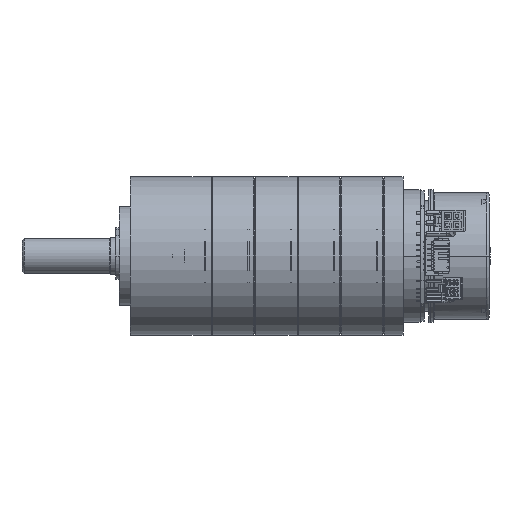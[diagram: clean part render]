
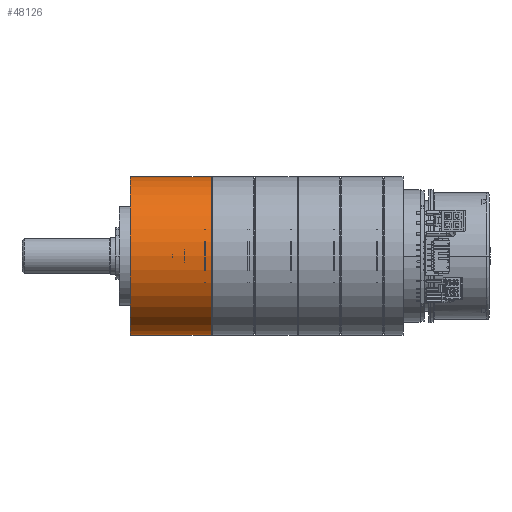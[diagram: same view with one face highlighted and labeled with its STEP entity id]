
A CAD part, front view. The second image highlights one B-rep face of the part: STEP entity #48126.
In plain terms, the highlighted cylindrical face has radius 36 mm (diameter 72 mm), a partial arc.
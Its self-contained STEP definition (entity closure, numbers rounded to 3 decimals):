
#3871 = LINE ( 'NONE', #88344, #62607 ) ;
#4495 = DIRECTION ( 'NONE',  ( 0., 0., -1. ) ) ;
#4564 = LINE ( 'NONE', #78953, #122420 ) ;
#5519 = VERTEX_POINT ( 'NONE', #35282 ) ;
#6551 = ORIENTED_EDGE ( 'NONE', *, *, #34325, .F. ) ;
#6750 = CARTESIAN_POINT ( 'NONE',  ( 33.6, 0., 36. ) ) ;
#6859 = DIRECTION ( 'NONE',  ( 1., 0., 0. ) ) ;
#9378 = DIRECTION ( 'NONE',  ( 0., 0., -1. ) ) ;
#12119 = CARTESIAN_POINT ( 'NONE',  ( -3., 0., -36. ) ) ;
#13664 = AXIS2_PLACEMENT_3D ( 'NONE', #16160, #63428, #4495 ) ;
#14488 = CIRCLE ( 'NONE', #22056, 36. ) ;
#16160 = CARTESIAN_POINT ( 'NONE',  ( -3., 0., 0. ) ) ;
#18763 = DIRECTION ( 'NONE',  ( -1., 0., 0. ) ) ;
#21782 = FACE_OUTER_BOUND ( 'NONE', #55292, .T. ) ;
#22056 = AXIS2_PLACEMENT_3D ( 'NONE', #53566, #18763, #66049 ) ;
#26633 = ORIENTED_EDGE ( 'NONE', *, *, #27469, .T. ) ;
#27469 = EDGE_CURVE ( 'NONE', #125797, #151654, #14488, .T. ) ;
#31954 = AXIS2_PLACEMENT_3D ( 'NONE', #93075, #138891, #9378 ) ;
#34325 = EDGE_CURVE ( 'NONE', #5519, #151654, #3871, .T. ) ;
#35282 = CARTESIAN_POINT ( 'NONE',  ( -3., 0., 36. ) ) ;
#48126 = ADVANCED_FACE ( 'NONE', ( #21782 ), #139642, .T. ) ;
#53566 = CARTESIAN_POINT ( 'NONE',  ( 33.6, 0., 0. ) ) ;
#55292 = EDGE_LOOP ( 'NONE', ( #6551, #74894, #133563, #26633 ) ) ;
#59165 = CARTESIAN_POINT ( 'NONE',  ( 33.6, 0., -36. ) ) ;
#61953 = VERTEX_POINT ( 'NONE', #12119 ) ;
#62607 = VECTOR ( 'NONE', #99176, 1000. ) ;
#63428 = DIRECTION ( 'NONE',  ( 1., 0., 0. ) ) ;
#66049 = DIRECTION ( 'NONE',  ( 0., 0., -1. ) ) ;
#73012 = CIRCLE ( 'NONE', #13664, 36. ) ;
#74894 = ORIENTED_EDGE ( 'NONE', *, *, #93286, .T. ) ;
#78953 = CARTESIAN_POINT ( 'NONE',  ( -5.08, 0., -36. ) ) ;
#88344 = CARTESIAN_POINT ( 'NONE',  ( -5.08, 0., 36. ) ) ;
#93075 = CARTESIAN_POINT ( 'NONE',  ( -5.08, 0., 0. ) ) ;
#93286 = EDGE_CURVE ( 'NONE', #5519, #61953, #73012, .T. ) ;
#99176 = DIRECTION ( 'NONE',  ( 1., 0., 0. ) ) ;
#122420 = VECTOR ( 'NONE', #6859, 1000. ) ;
#125797 = VERTEX_POINT ( 'NONE', #59165 ) ;
#130890 = EDGE_CURVE ( 'NONE', #61953, #125797, #4564, .T. ) ;
#133563 = ORIENTED_EDGE ( 'NONE', *, *, #130890, .T. ) ;
#138891 = DIRECTION ( 'NONE',  ( 1., 0., 0. ) ) ;
#139642 = CYLINDRICAL_SURFACE ( 'NONE', #31954, 36. ) ;
#151654 = VERTEX_POINT ( 'NONE', #6750 ) ;
